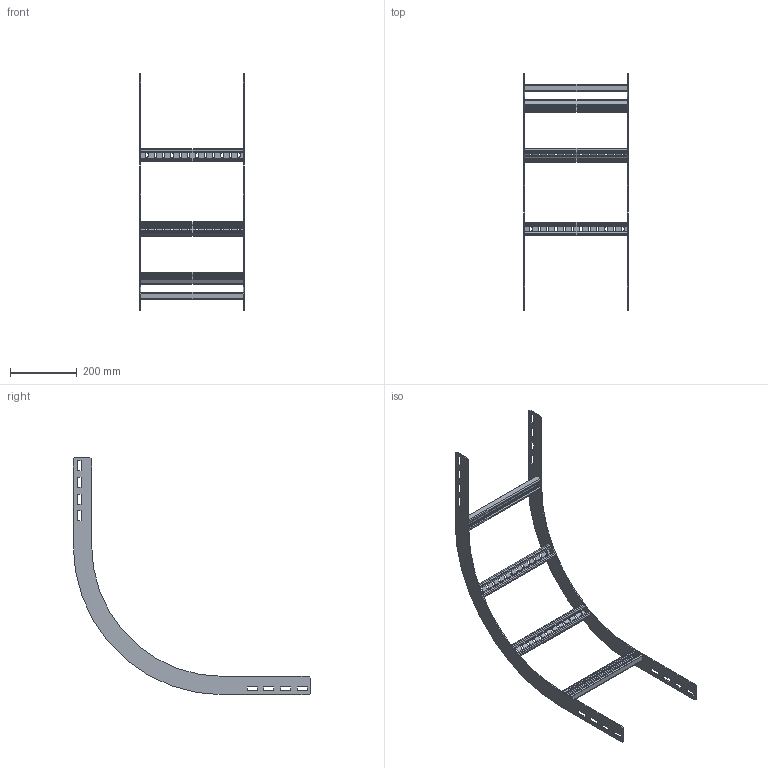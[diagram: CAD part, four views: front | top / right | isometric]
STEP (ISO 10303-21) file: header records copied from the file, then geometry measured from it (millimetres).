
FILE_DESCRIPTION(('Creo Elements/Direct Modeling STEP Export'),'2;1');
FILE_NAME('//pserver/office/EK/ME10-3D/3D-output/WPOR06-30-90-30.stp','2019-08-14T 9:43:37',(''),(''),'PTC Creo Elements/Direct Modeling STEP processor for AP214 (Solid Model)','PTC Creo Elements/Direct Modeling 19.0C 15-Aug-2015 (C) Parametric Technology GmbH','');
FILE_SCHEMA(('AUTOMOTIVE_DESIGN { 1 0 10303 214 1 1 1 1 }'));
Length unit declared in the file: millimetre
Products named in the file (3): WPORS_60-90-300.002; WPHBS30.1; WPOR06-30-90-30
Assembly tree (6 placements, depth 2):
  WPOR06-30-90-30
    WPHBS30.1  x4
    WPORS_60-90-300.002  x2
Bounding box: 311 x 710 x 710 mm (x, y, z)
Volume: 552553.4 mm3; surface area: 513712 mm2
Topology: 6 solids, 6 shells, 444 faces, 1296 edges, 864 vertices
Faces by surface type: plane 272, cylinder 172
Entity records: 4604 total; most frequent: CARTESIAN_POINT 790, ORIENTED_EDGE 780, DIRECTION 758, EDGE_CURVE 390, VECTOR 302, LINE 302, VERTEX_POINT 260, AXIS2_PLACEMENT_3D 228
